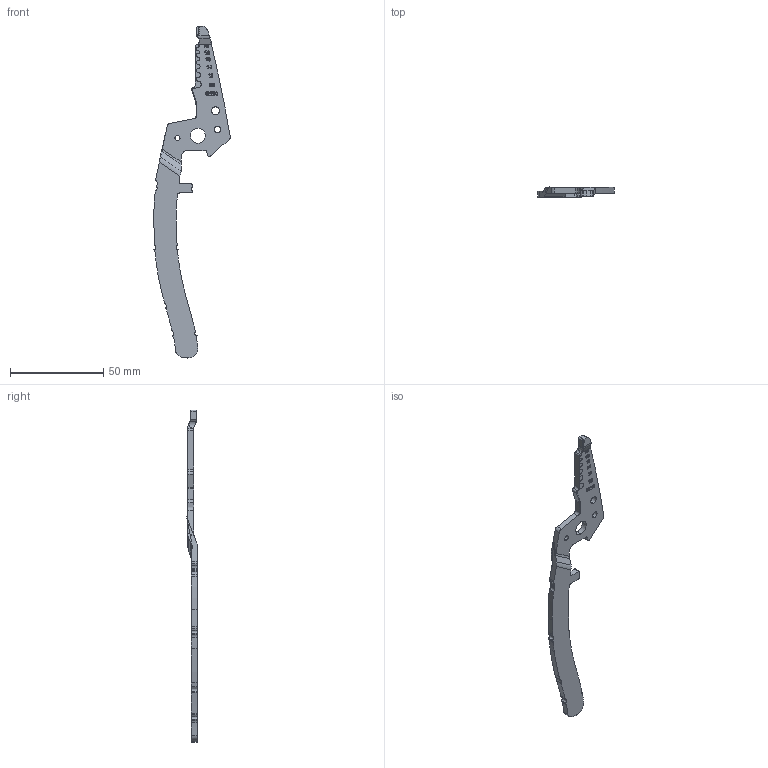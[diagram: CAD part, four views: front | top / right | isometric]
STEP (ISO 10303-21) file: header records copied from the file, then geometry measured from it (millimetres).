
FILE_DESCRIPTION (( 'STEP AP203' ), '1' );
FILE_NAME ('MT702 RH STAMPED WIRE STRIPPER 6-12-25.STEP', '2025-06-12T18:59:29', ( '' ), ( '' ), 'SwSTEP 2.0', 'SolidWorks 2025', '' );
FILE_SCHEMA (( 'CONFIG_CONTROL_DESIGN' ));
Length unit declared in the file: inch
Products named in the file (1): MT702 RH STAMPED WIRE STRIPPER 6-12-25
Bounding box: 40.91 x 5.67 x 177.62 mm (x, y, z)
Volume: 7767.2 mm3; surface area: 6918.1 mm2
Topology: 3 solids, 3 shells, 426 faces, 1349 edges, 1000 vertices
Faces by surface type: plane 211, cylinder 114, bspline 95, cone 6
Entity records: 17768 total; most frequent: CARTESIAN_POINT 6438, ORIENTED_EDGE 2698, DIRECTION 1801, EDGE_CURVE 1349, VERTEX_POINT 1000, LINE 685, VECTOR 685, AXIS2_PLACEMENT_3D 558
